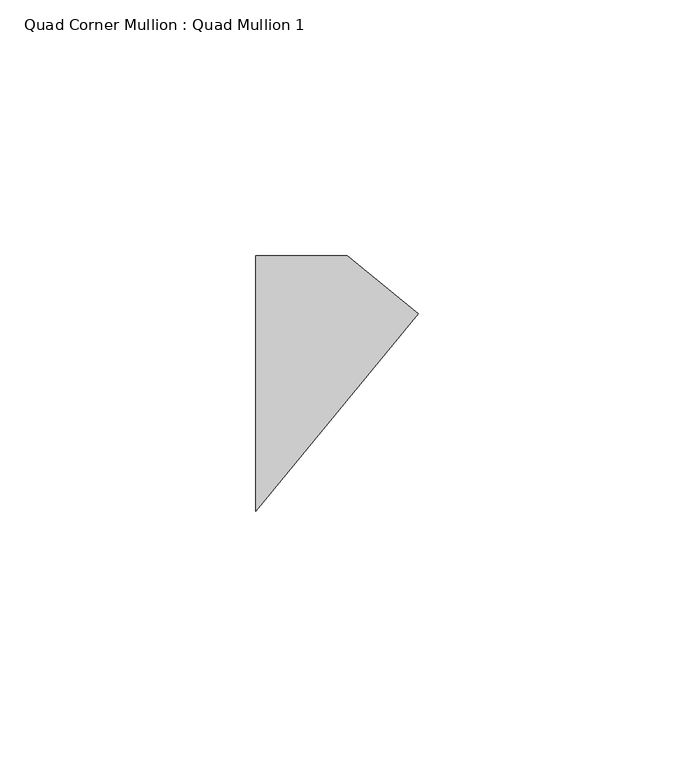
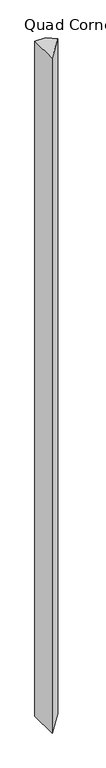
"""IFC4 building model written with IfcOpenShell, lengths in millimetres: member geometry, Quad Corner Mullion : Quad Mullion 1."""

from ifc_helpers import new_model, si_unit, frame, origin, place, context, project, spatial, polyline, outline, extrude, source, transform, mapped, element, save


def quad_corner_mullion_quad_mullion_1_d752d586(model_context):
    return source(origin(), model_context, "Body", "SweptSolid", [
        extrude(outline(polyline([(22.8068923, 13.6086231), (-8.963758, -25.0), (-8.963758, 25.0), (8.963758, 25.0), (22.8068923, 13.6086231)])), frame((0.0, 0.0, -1200.0), z_axis=(0.0, 0.0, 1.0), x_axis=(1.0, 0.0, 0.0)), (0.0, 0.0, 1.0), 1200.0),
    ])


if __name__ == "__main__":
    model = new_model("IFC4")
    model_context = context("Model", 3, world=origin())
    ifc_project = project(units=[si_unit("LENGTHUNIT", "METRE", prefix="MILLI")], contexts=[model_context])
    site = spatial("IfcSite", under=ifc_project)
    building = spatial("IfcBuilding", under=site)
    placement = place(None, origin())
    quad_corner_mullion_quad_mullion_1_shape = quad_corner_mullion_quad_mullion_1_d752d586(model_context)
    element("IfcMember", 1, ObjectType="Quad Corner Mullion : Quad Mullion 1", at=placement, inside=building, context=model_context, shape_type="MappedRepresentation", body=[
        mapped(quad_corner_mullion_quad_mullion_1_shape, transform((0.0, 0.0, 0.0), x_axis=(1.0, 0.0, 0.0), y_axis=(0.0, 1.0, 0.0), z_axis=(0.0, 0.0, 1.0))),
    ])
    save(model, "model.ifc")
